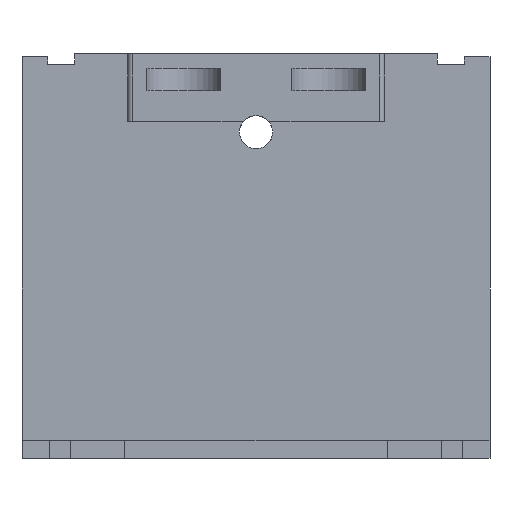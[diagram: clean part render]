
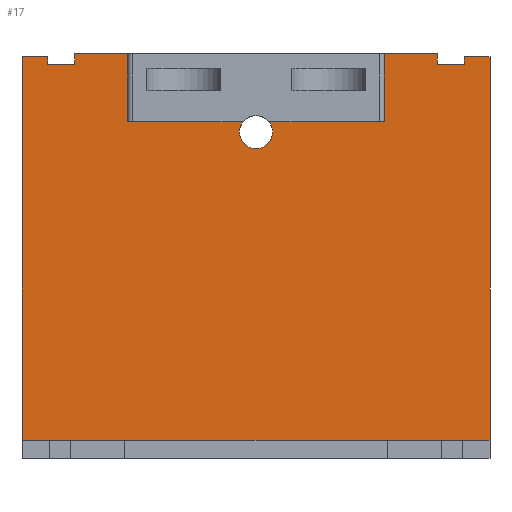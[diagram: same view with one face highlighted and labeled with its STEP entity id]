
A CAD part, front view. The second image highlights one B-rep face of the part: STEP entity #17.
In plain terms, the highlighted planar face has unit normal (0, -1, 0).
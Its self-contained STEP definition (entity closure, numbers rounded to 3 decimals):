
#17 = ADVANCED_FACE('',(#18),#174,.T.);
#18 = FACE_BOUND('',#19,.T.);
#19 = EDGE_LOOP('',(#20,#30,#38,#46,#54,#62,#70,#78,#86,#94,#103,#112,
    #120,#128,#136,#144,#152,#160,#168));
#20 = ORIENTED_EDGE('',*,*,#21,.F.);
#21 = EDGE_CURVE('',#22,#24,#26,.T.);
#22 = VERTEX_POINT('',#23);
#23 = CARTESIAN_POINT('',(15.5,2.3,14.4));
#24 = VERTEX_POINT('',#25);
#25 = CARTESIAN_POINT('',(-15.5,2.3,14.4));
#26 = LINE('',#27,#28);
#27 = CARTESIAN_POINT('',(0.001,2.3,14.4));
#28 = VECTOR('',#29,1.);
#29 = DIRECTION('',(-1.,0.,0.));
#30 = ORIENTED_EDGE('',*,*,#31,.T.);
#31 = EDGE_CURVE('',#22,#32,#34,.T.);
#32 = VERTEX_POINT('',#33);
#33 = CARTESIAN_POINT('',(15.5,2.3,39.8));
#34 = LINE('',#35,#36);
#35 = CARTESIAN_POINT('',(15.5,2.3,13.2));
#36 = VECTOR('',#37,1.);
#37 = DIRECTION('',(0.,0.,1.));
#38 = ORIENTED_EDGE('',*,*,#39,.F.);
#39 = EDGE_CURVE('',#40,#32,#42,.T.);
#40 = VERTEX_POINT('',#41);
#41 = CARTESIAN_POINT('',(13.8,2.3,39.8));
#42 = LINE('',#43,#44);
#43 = CARTESIAN_POINT('',(11.8,2.3,39.8));
#44 = VECTOR('',#45,1.);
#45 = DIRECTION('',(1.,0.,0.));
#46 = ORIENTED_EDGE('',*,*,#47,.F.);
#47 = EDGE_CURVE('',#48,#40,#50,.T.);
#48 = VERTEX_POINT('',#49);
#49 = CARTESIAN_POINT('',(13.8,2.3,39.3));
#50 = LINE('',#51,#52);
#51 = CARTESIAN_POINT('',(13.8,2.3,33.513));
#52 = VECTOR('',#53,1.);
#53 = DIRECTION('',(0.,0.,1.));
#54 = ORIENTED_EDGE('',*,*,#55,.T.);
#55 = EDGE_CURVE('',#48,#56,#58,.T.);
#56 = VERTEX_POINT('',#57);
#57 = CARTESIAN_POINT('',(12.,2.3,39.3));
#58 = LINE('',#59,#60);
#59 = CARTESIAN_POINT('',(0.001,2.3,39.3));
#60 = VECTOR('',#61,1.);
#61 = DIRECTION('',(-1.,0.,0.));
#62 = ORIENTED_EDGE('',*,*,#63,.F.);
#63 = EDGE_CURVE('',#64,#56,#66,.T.);
#64 = VERTEX_POINT('',#65);
#65 = CARTESIAN_POINT('',(12.,2.3,40.));
#66 = LINE('',#67,#68);
#67 = CARTESIAN_POINT('',(12.,2.3,33.513));
#68 = VECTOR('',#69,1.);
#69 = DIRECTION('',(0.,0.,-1.));
#70 = ORIENTED_EDGE('',*,*,#71,.F.);
#71 = EDGE_CURVE('',#72,#64,#74,.T.);
#72 = VERTEX_POINT('',#73);
#73 = CARTESIAN_POINT('',(8.5,2.3,40.));
#74 = LINE('',#75,#76);
#75 = CARTESIAN_POINT('',(-12.,2.3,40.));
#76 = VECTOR('',#77,1.);
#77 = DIRECTION('',(1.,0.,0.));
#78 = ORIENTED_EDGE('',*,*,#79,.T.);
#79 = EDGE_CURVE('',#72,#80,#82,.T.);
#80 = VERTEX_POINT('',#81);
#81 = CARTESIAN_POINT('',(8.5,2.3,35.5));
#82 = LINE('',#83,#84);
#83 = CARTESIAN_POINT('',(8.5,2.3,24.35));
#84 = VECTOR('',#85,1.);
#85 = DIRECTION('',(0.,0.,-1.));
#86 = ORIENTED_EDGE('',*,*,#87,.F.);
#87 = EDGE_CURVE('',#88,#80,#90,.T.);
#88 = VERTEX_POINT('',#89);
#89 = CARTESIAN_POINT('',(0.849,2.3,35.5));
#90 = LINE('',#91,#92);
#91 = CARTESIAN_POINT('',(-6.,2.3,35.5));
#92 = VECTOR('',#93,1.);
#93 = DIRECTION('',(1.,0.,0.));
#94 = ORIENTED_EDGE('',*,*,#95,.T.);
#95 = EDGE_CURVE('',#88,#96,#98,.T.);
#96 = VERTEX_POINT('',#97);
#97 = CARTESIAN_POINT('',(1.1,2.3,34.8));
#98 = CIRCLE('',#99,1.1);
#99 = AXIS2_PLACEMENT_3D('',#100,#101,#102);
#100 = CARTESIAN_POINT('',(0.,2.3,34.8));
#101 = DIRECTION('',(0.,1.,0.));
#102 = DIRECTION('',(1.,0.,0.));
#103 = ORIENTED_EDGE('',*,*,#104,.T.);
#104 = EDGE_CURVE('',#96,#105,#107,.T.);
#105 = VERTEX_POINT('',#106);
#106 = CARTESIAN_POINT('',(-0.849,2.3,35.5));
#107 = CIRCLE('',#108,1.1);
#108 = AXIS2_PLACEMENT_3D('',#109,#110,#111);
#109 = CARTESIAN_POINT('',(0.,2.3,34.8));
#110 = DIRECTION('',(0.,1.,0.));
#111 = DIRECTION('',(1.,0.,0.));
#112 = ORIENTED_EDGE('',*,*,#113,.F.);
#113 = EDGE_CURVE('',#114,#105,#116,.T.);
#114 = VERTEX_POINT('',#115);
#115 = CARTESIAN_POINT('',(-8.5,2.3,35.5));
#116 = LINE('',#117,#118);
#117 = CARTESIAN_POINT('',(-6.,2.3,35.5));
#118 = VECTOR('',#119,1.);
#119 = DIRECTION('',(1.,0.,0.));
#120 = ORIENTED_EDGE('',*,*,#121,.T.);
#121 = EDGE_CURVE('',#114,#122,#124,.T.);
#122 = VERTEX_POINT('',#123);
#123 = CARTESIAN_POINT('',(-8.5,2.3,40.));
#124 = LINE('',#125,#126);
#125 = CARTESIAN_POINT('',(-8.5,2.3,24.35));
#126 = VECTOR('',#127,1.);
#127 = DIRECTION('',(0.,0.,1.));
#128 = ORIENTED_EDGE('',*,*,#129,.F.);
#129 = EDGE_CURVE('',#130,#122,#132,.T.);
#130 = VERTEX_POINT('',#131);
#131 = CARTESIAN_POINT('',(-12.,2.3,40.));
#132 = LINE('',#133,#134);
#133 = CARTESIAN_POINT('',(-12.,2.3,40.));
#134 = VECTOR('',#135,1.);
#135 = DIRECTION('',(1.,0.,0.));
#136 = ORIENTED_EDGE('',*,*,#137,.F.);
#137 = EDGE_CURVE('',#138,#130,#140,.T.);
#138 = VERTEX_POINT('',#139);
#139 = CARTESIAN_POINT('',(-12.,2.3,39.3));
#140 = LINE('',#141,#142);
#141 = CARTESIAN_POINT('',(-12.,2.3,13.2));
#142 = VECTOR('',#143,1.);
#143 = DIRECTION('',(0.,0.,1.));
#144 = ORIENTED_EDGE('',*,*,#145,.T.);
#145 = EDGE_CURVE('',#138,#146,#148,.T.);
#146 = VERTEX_POINT('',#147);
#147 = CARTESIAN_POINT('',(-13.8,2.3,39.3));
#148 = LINE('',#149,#150);
#149 = CARTESIAN_POINT('',(0.001,2.3,39.3));
#150 = VECTOR('',#151,1.);
#151 = DIRECTION('',(-1.,0.,0.));
#152 = ORIENTED_EDGE('',*,*,#153,.F.);
#153 = EDGE_CURVE('',#154,#146,#156,.T.);
#154 = VERTEX_POINT('',#155);
#155 = CARTESIAN_POINT('',(-13.8,2.3,39.8));
#156 = LINE('',#157,#158);
#157 = CARTESIAN_POINT('',(-13.8,2.3,33.513));
#158 = VECTOR('',#159,1.);
#159 = DIRECTION('',(0.,0.,-1.));
#160 = ORIENTED_EDGE('',*,*,#161,.F.);
#161 = EDGE_CURVE('',#162,#154,#164,.T.);
#162 = VERTEX_POINT('',#163);
#163 = CARTESIAN_POINT('',(-15.5,2.3,39.8));
#164 = LINE('',#165,#166);
#165 = CARTESIAN_POINT('',(-15.5,2.3,39.8));
#166 = VECTOR('',#167,1.);
#167 = DIRECTION('',(1.,0.,0.));
#168 = ORIENTED_EDGE('',*,*,#169,.F.);
#169 = EDGE_CURVE('',#24,#162,#170,.T.);
#170 = LINE('',#171,#172);
#171 = CARTESIAN_POINT('',(-15.5,2.3,13.2));
#172 = VECTOR('',#173,1.);
#173 = DIRECTION('',(0.,0.,1.));
#174 = PLANE('',#175);
#175 = AXIS2_PLACEMENT_3D('',#176,#177,#178);
#176 = CARTESIAN_POINT('',(0.001,2.3,26.927));
#177 = DIRECTION('',(-0.,-1.,-0.));
#178 = DIRECTION('',(0.,0.,-1.));
